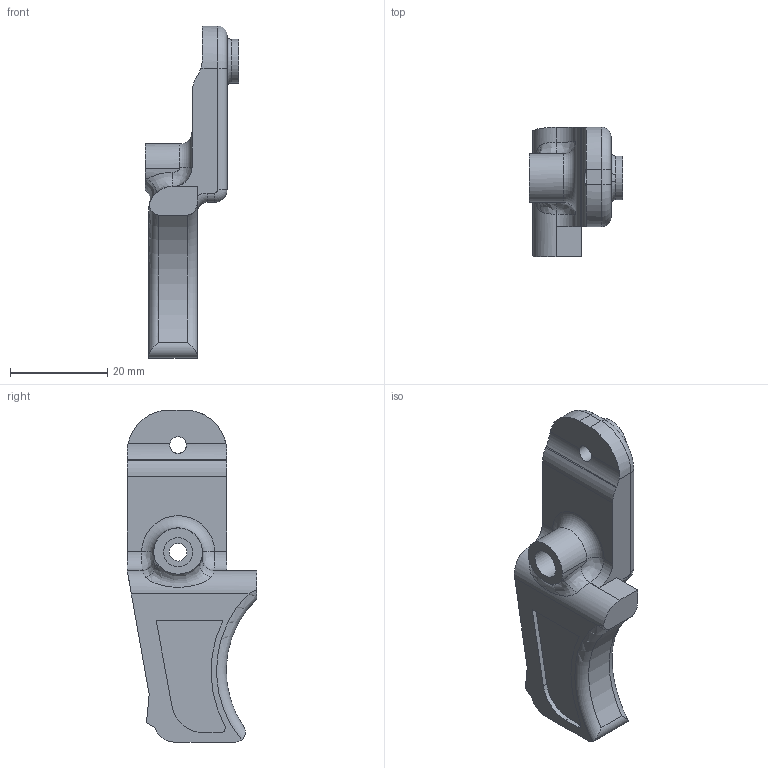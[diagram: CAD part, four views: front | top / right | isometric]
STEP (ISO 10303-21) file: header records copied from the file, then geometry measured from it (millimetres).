
FILE_DESCRIPTION(('HOOPS Exchange Step'),'2;1');
FILE_NAME('/private/var/mobile/Containers/Data/Application/1891C519-D202-45A7-B044-D4512E61EE87/tmp/export/temp_export','2026-07-10T21:10:28+18:00',('mobile'),('Shapr3D Limited'),'HOOPS Exchange 2026.3','Shapr3D','Authorized');
FILE_SCHEMA( ('AP242_MANAGED_MODEL_BASED_3D_ENGINEERING_MIM_LF {1 0 10303 442 1 1 4}') );
Length unit declared in the file: millimetre
Products named in the file (2): Trigger; root
Assembly tree (1 placements, depth 2):
  root
    Trigger
Bounding box: 19.18 x 26.59 x 68.21 mm (x, y, z)
Volume: 11375.2 mm3; surface area: 4952.7 mm2
Topology: 1 solids, 1 shells, 83 faces, 219 edges, 142 vertices
Faces by surface type: cylinder 34, plane 32, torus 9, bspline 8
Full cylindrical faces by diameter (mm): 3.4 x1, 3.606 x1, 4.8 x1, 5.9 x1, 6 x2, 9 x1
Entity records: 5764 total; most frequent: CARTESIAN_POINT 3620, DIRECTION 440, ORIENTED_EDGE 438, EDGE_CURVE 219, AXIS2_PLACEMENT_3D 171, VERTEX_POINT 142, VECTOR 98, LINE 98
